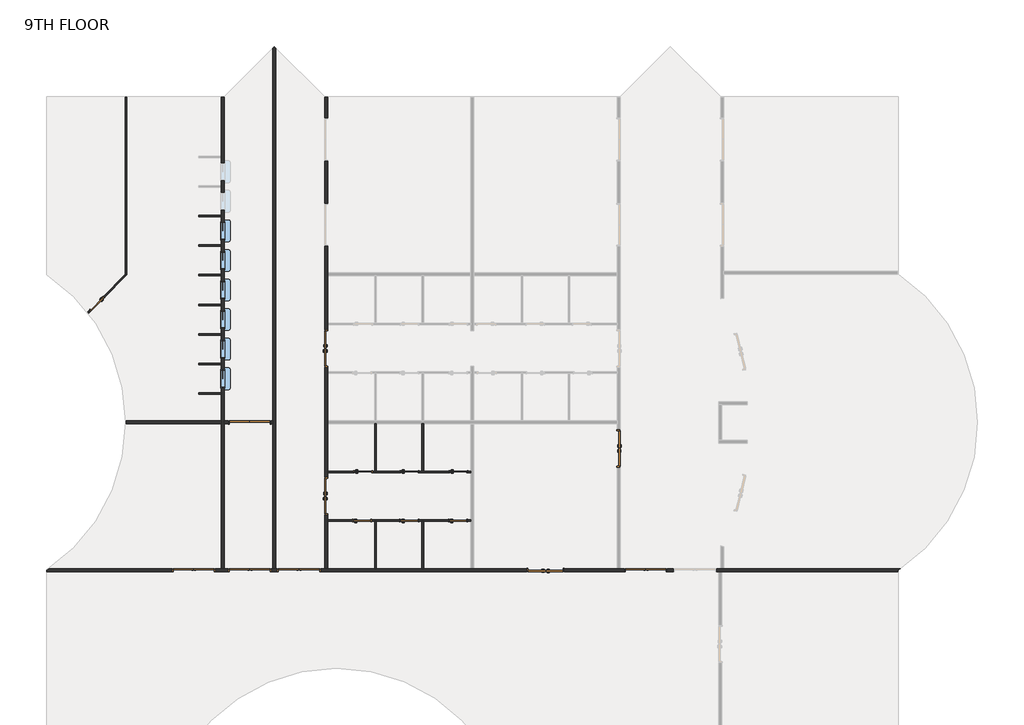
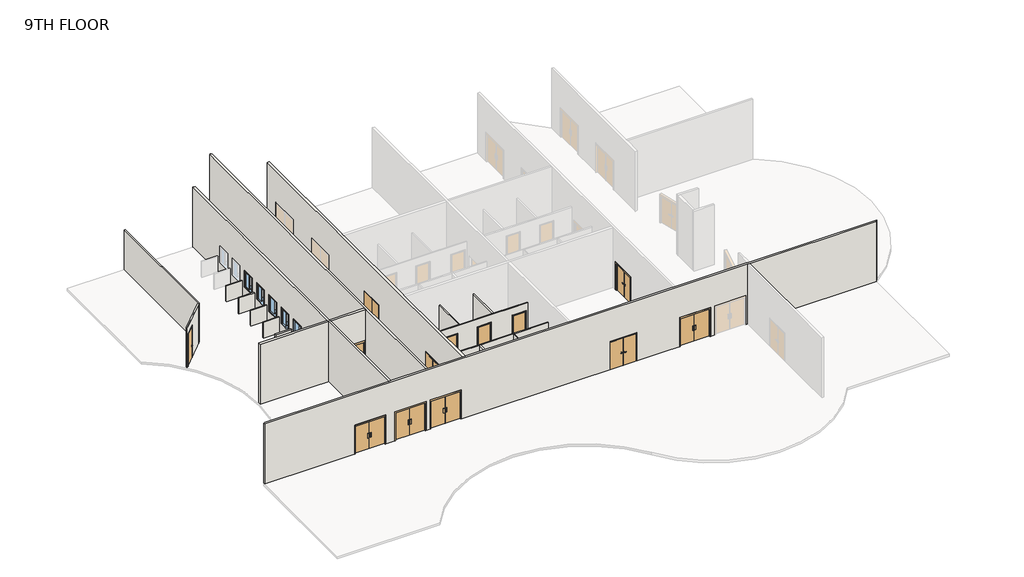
# One storey, part 1 of 2: 20 walls, 16 doors, 6 windows.
"""IFC4 building model written with IfcOpenShell, lengths in millimetres."""

from ifc_helpers import new_model, si_unit, point, frame, frame_2d, origin, place, context, project, spatial, polyline, circle_curve, trimmed, segment, composite_curve, outline, extrude, faceted_brep, transform, mapped, element, save
from ifc_brep_helpers import plane_surface, cylinder_surface, revolved_surface, advanced_brep
from components import door_2f250f70, door_0b13e4d9, door_b3a27a16, door_979b1b8c, door_f8b587be, pass_thru_4x3_19d81059

model = new_model("IFC4")

# Units and contexts
model_context = context("Model", 3, world=origin())
ifc_project = project(units=[si_unit("LENGTHUNIT", "METRE", prefix="MILLI")], contexts=[model_context])

# Site, building, storey
site = spatial("IfcSite", under=ifc_project)
building = spatial("IfcBuilding", under=site)
storey = spatial("IfcBuildingStorey", under=building, Name="9TH FLOOR", Elevation=41148.0)

# Doors
placement = place(None, origin())
door_shape = door_2f250f70(model_context)
element("IfcDoor", 1, ObjectType="Door-Passage-Double-Flush : 72\" x 82\"", at=placement, inside=storey, context=model_context, shape_type="MappedRepresentation", body=[
    mapped(door_shape, transform((14556.3400257, 13109.575, 41148.0), x_axis=(0.0, 1.0, 0.0), y_axis=(-1.0, 0.0, 0.0), z_axis=(0.0, 0.0, 1.0))),
])
element("IfcDoor", 2, ObjectType="Door-Passage-Double-Flush : 72\" x 82\"", at=placement, inside=storey, context=model_context, shape_type="MappedRepresentation", body=[
    mapped(door_shape, transform((14556.3400257, 20729.575, 41148.0), x_axis=(0.0, 1.0, 0.0), y_axis=(-1.0, 0.0, 0.0), z_axis=(0.0, 0.0, 1.0))),
])
element("IfcDoor", 3, ObjectType="Door-Passage-Double-Flush : 72\" x 82\"", at=placement, inside=storey, context=model_context, shape_type="MappedRepresentation", body=[
    mapped(door_shape, transform((25872.8337757, 9305.925, 41148.0), x_axis=(-1.0, 0.0, 0.0), y_axis=(0.0, -1.0, 0.0), z_axis=(0.0, 0.0, 1.0))),
])
element("IfcDoor", 4, ObjectType="Door-Passage-Double-Flush : 72\" x 82\"", at=placement, inside=storey, context=model_context, shape_type="MappedRepresentation", body=[
    mapped(door_shape, transform((29628.0650257, 15571.7875, 41148.0), x_axis=(0.0, -1.0, 0.0), y_axis=(1.0, 0.0, 0.0), z_axis=(0.0, 0.0, 1.0))),
])
door_2_shape = door_0b13e4d9(model_context)
element("IfcDoor", 5, ObjectType="Door-Passage-Double-Flush-Dbl_Acting : 84\" x 84\"", at=placement, inside=storey, context=model_context, shape_type="MappedRepresentation", body=[
    mapped(door_2_shape, transform((13151.4025257, 9293.225, 41148.0), x_axis=(-1.0, 0.0, 0.0), y_axis=(0.0, -1.0, 0.0), z_axis=(0.0, 0.0, 1.0))),
])
door_3_shape = door_b3a27a16(model_context)
element("IfcDoor", 6, ObjectType="Door-Passage-Double-Flush-Dbl_Acting : 84\" x 84\"", at=placement, inside=storey, context=model_context, shape_type="MappedRepresentation", body=[
    mapped(door_3_shape, transform((31033.0025257, 9293.225, 41148.0), x_axis=(1.0, 0.0, 0.0), y_axis=(0.0, 1.0, 0.0), z_axis=(0.0, 0.0, 1.0))),
])
element("IfcDoor", 7, ObjectType="Door-Passage-Double-Flush-Dbl_Acting : 84\" x 84\"", at=placement, inside=storey, context=model_context, shape_type="MappedRepresentation", body=[
    mapped(door_3_shape, transform((10620.375, 9293.225, 41148.0), x_axis=(1.0, 0.0, 0.0), y_axis=(0.0, 1.0, 0.0), z_axis=(0.0, 0.0, 1.0))),
])
element("IfcDoor", 8, ObjectType="Door-Passage-Double-Flush-Dbl_Acting : 84\" x 84\"", at=placement, inside=storey, context=model_context, shape_type="MappedRepresentation", body=[
    mapped(door_3_shape, transform((7730.5724743, 9293.225, 41148.0), x_axis=(1.0, 0.0, 0.0), y_axis=(0.0, 1.0, 0.0), z_axis=(0.0, 0.0, 1.0))),
])
element("IfcDoor", 9, ObjectType="Door-Passage-Double-Flush-Dbl_Acting : 84\" x 84\"", at=placement, inside=storey, context=model_context, shape_type="MappedRepresentation", body=[
    mapped(door_3_shape, transform((10620.375, 16913.225, 41148.0), x_axis=(1.0, 0.0, 0.0), y_axis=(0.0, 1.0, 0.0), z_axis=(0.0, 0.0, 1.0))),
])
door_4_shape = door_979b1b8c(model_context)
element("IfcDoor", 10, ObjectType="Door-Passage-Single-Flush : 36\" x 96\"", at=placement, inside=storey, context=model_context, shape_type="MappedRepresentation", body=[
    mapped(door_4_shape, transform((16456.5775257, 14357.35, 41148.0), x_axis=(1.0, 0.0, 0.0), y_axis=(0.0, 1.0, 0.0), z_axis=(0.0, 0.0, 1.0))),
])
element("IfcDoor", 11, ObjectType="Door-Passage-Single-Flush : 36\" x 96\"", at=placement, inside=storey, context=model_context, shape_type="MappedRepresentation", body=[
    mapped(door_4_shape, transform((18855.2900257, 14357.35, 41148.0), x_axis=(1.0, 0.0, 0.0), y_axis=(0.0, 1.0, 0.0), z_axis=(0.0, 0.0, 1.0))),
])
element("IfcDoor", 12, ObjectType="Door-Passage-Single-Flush : 36\" x 96\"", at=placement, inside=storey, context=model_context, shape_type="MappedRepresentation", body=[
    mapped(door_4_shape, transform((21373.0650257, 14357.35, 41148.0), x_axis=(1.0, 0.0, 0.0), y_axis=(0.0, 1.0, 0.0), z_axis=(0.0, 0.0, 1.0))),
])
element("IfcDoor", 13, ObjectType="Door-Passage-Single-Flush : 36\" x 96\"", at=placement, inside=storey, context=model_context, shape_type="MappedRepresentation", body=[
    mapped(door_4_shape, transform((2731.3607977, 23031.2061406, 41148.0), x_axis=(-0.7071067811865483, -0.7071067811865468, 0.0), y_axis=(0.7071067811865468, -0.7071067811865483, 0.0), z_axis=(0.0, 0.0, 1.0))),
])
door_5_shape = door_f8b587be(model_context)
element("IfcDoor", 14, ObjectType="Door-Passage-Single-Flush : 36\" x 96\"", at=placement, inside=storey, context=model_context, shape_type="MappedRepresentation", body=[
    mapped(door_5_shape, transform((16405.7775257, 11861.8, 41148.0), x_axis=(1.0, 0.0, 0.0), y_axis=(0.0, 1.0, 0.0), z_axis=(0.0, 0.0, 1.0))),
])
element("IfcDoor", 15, ObjectType="Door-Passage-Single-Flush : 36\" x 96\"", at=placement, inside=storey, context=model_context, shape_type="MappedRepresentation", body=[
    mapped(door_5_shape, transform((18836.2400257, 11861.8, 41148.0), x_axis=(1.0, 0.0, 0.0), y_axis=(0.0, 1.0, 0.0), z_axis=(0.0, 0.0, 1.0))),
])
element("IfcDoor", 16, ObjectType="Door-Passage-Single-Flush : 36\" x 96\"", at=placement, inside=storey, context=model_context, shape_type="MappedRepresentation", body=[
    mapped(door_5_shape, transform((21354.0150257, 11861.8, 41148.0), x_axis=(1.0, 0.0, 0.0), y_axis=(0.0, 1.0, 0.0), z_axis=(0.0, 0.0, 1.0))),
])

# Walls
element("IfcWall", 17, ObjectType="SYR_INT_ONE_HOUR", at=placement, inside=storey, context=model_context, shape_type="SweptSolid", body=[
    extrude(outline(polyline([(17066.1775257, 14403.3875), (17066.1775257, 16841.7875), (17145.5525257, 16841.7875), (17145.5525257, 14403.3875), (17066.1775257, 14403.3875)])), frame((0.0, 0.0, 41148.0), z_axis=(0.0, 0.0, 1.0), x_axis=(1.0, 0.0, 0.0)), (0.0, 0.0, 1.0), 3048.0),
])
element("IfcWall", 18, ObjectType="SYR_INT_ONE_HOUR", at=placement, inside=storey, context=model_context, shape_type="SweptSolid", body=[
    extrude(outline(polyline([(19576.0150257, 11815.7625), (19576.0150257, 9377.3625), (19496.6400257, 9377.3625), (19496.6400257, 11815.7625), (19576.0150257, 11815.7625)])), frame((0.0, 0.0, 41148.0), z_axis=(0.0, 0.0, 1.0), x_axis=(1.0, 0.0, 0.0)), (0.0, 0.0, 1.0), 3048.0),
])
element("IfcWall", 19, ObjectType="SYR_INT_ONE_HOUR", at=placement, inside=storey, context=model_context, shape_type="Brep", body=[
    faceted_brep([(14627.7775257, 14403.3875, 44196.0), (17066.1775257, 14403.3875, 44196.0), (17145.5525257, 14403.3875, 44196.0), (19496.6400257, 14403.3875, 44196.0), (19576.0150257, 14403.3875, 44196.0), (22014.4150257, 14403.3875, 44196.0), (22014.4150257, 14403.3875, 41148.0), (21862.0150257, 14403.3875, 41148.0), (21862.0150257, 14403.3875, 43618.15), (20884.1150257, 14403.3875, 43618.15), (20884.1150257, 14403.3875, 41148.0), (19576.0150257, 14403.3875, 41148.0), (19496.6400257, 14403.3875, 41148.0), (19344.2400257, 14403.3875, 41148.0), (19344.2400257, 14403.3875, 43618.15), (18366.3400257, 14403.3875, 43618.15), (18366.3400257, 14403.3875, 41148.0), (17145.5525257, 14403.3875, 41148.0), (17066.1775257, 14403.3875, 41148.0), (16945.5275257, 14403.3875, 41148.0), (16945.5275257, 14403.3875, 43618.15), (15967.6275257, 14403.3875, 43618.15), (15967.6275257, 14403.3875, 41148.0), (14627.7775257, 14403.3875, 41148.0), (22014.4150257, 14324.0125, 44196.0), (14627.7775257, 14324.0125, 44196.0), (14627.7775257, 14324.0125, 41148.0), (15967.6275257, 14324.0125, 41148.0), (15967.6275257, 14324.0125, 43618.15), (16945.5275257, 14324.0125, 43618.15), (16945.5275257, 14324.0125, 41148.0), (18366.3400257, 14324.0125, 41148.0), (18366.3400257, 14324.0125, 43618.15), (19344.2400257, 14324.0125, 43618.15), (19344.2400257, 14324.0125, 41148.0), (20884.1150257, 14324.0125, 41148.0), (20884.1150257, 14324.0125, 43618.15), (21862.0150257, 14324.0125, 43618.15), (21862.0150257, 14324.0125, 41148.0), (22014.4150257, 14324.0125, 41148.0)], [[[0, 1, 2, 3, 4, 5, 6, 7, 8, 9, 10, 11, 12, 13, 14, 15, 16, 17, 18, 19, 20, 21, 22, 23]], [[24, 25, 26, 27, 28, 29, 30, 31, 32, 33, 34, 35, 36, 37, 38, 39]], [[6, 39, 38, 7]], [[26, 23, 22, 27]], [[30, 19, 18, 17, 16, 31]], [[34, 13, 12, 11, 10, 35]], [[5, 4, 3, 2, 1, 0, 25, 24]], [[0, 23, 26, 25]], [[6, 5, 24, 39]], [[29, 20, 19, 30]], [[20, 29, 28, 21]], [[21, 28, 27, 22]], [[14, 13, 34, 33]], [[15, 14, 33, 32]], [[16, 15, 32, 31]], [[37, 8, 7, 38]], [[8, 37, 36, 9]], [[9, 36, 35, 10]]]),
])
element("IfcWall", 20, ObjectType="SYR_INT_ONE_HOUR", at=placement, inside=storey, context=model_context, shape_type="Brep", body=[
    faceted_brep([(14627.7775257, 11895.1375, 44196.0), (22014.4150257, 11895.1375, 44196.0), (22014.4150257, 11895.1375, 41148.0), (21842.9650257, 11895.1375, 41148.0), (21842.9650257, 11895.1375, 43618.15), (20865.0650257, 11895.1375, 43618.15), (20865.0650257, 11895.1375, 41148.0), (19325.1900257, 11895.1375, 41148.0), (19325.1900257, 11895.1375, 43618.15), (18347.2900257, 11895.1375, 43618.15), (18347.2900257, 11895.1375, 41148.0), (16894.7275257, 11895.1375, 41148.0), (16894.7275257, 11895.1375, 43618.15), (15916.8275257, 11895.1375, 43618.15), (15916.8275257, 11895.1375, 41148.0), (14627.7775257, 11895.1375, 41148.0), (22014.4150257, 11815.7625, 44196.0), (19576.0150257, 11815.7625, 44196.0), (19496.6400257, 11815.7625, 44196.0), (17145.5525257, 11815.7625, 44196.0), (17066.1775257, 11815.7625, 44196.0), (14627.7775257, 11815.7625, 44196.0), (14627.7775257, 11815.7625, 41148.0), (15916.8275257, 11815.7625, 41148.0), (15916.8275257, 11815.7625, 43618.15), (16894.7275257, 11815.7625, 43618.15), (16894.7275257, 11815.7625, 41148.0), (17066.1775257, 11815.7625, 41148.0), (17145.5525257, 11815.7625, 41148.0), (18347.2900257, 11815.7625, 41148.0), (18347.2900257, 11815.7625, 43618.15), (19325.1900257, 11815.7625, 43618.15), (19325.1900257, 11815.7625, 41148.0), (19496.6400257, 11815.7625, 41148.0), (19576.0150257, 11815.7625, 41148.0), (20865.0650257, 11815.7625, 41148.0), (20865.0650257, 11815.7625, 43618.15), (21842.9650257, 11815.7625, 43618.15), (21842.9650257, 11815.7625, 41148.0), (22014.4150257, 11815.7625, 41148.0)], [[[0, 1, 2, 3, 4, 5, 6, 7, 8, 9, 10, 11, 12, 13, 14, 15]], [[16, 17, 18, 19, 20, 21, 22, 23, 24, 25, 26, 27, 28, 29, 30, 31, 32, 33, 34, 35, 36, 37, 38, 39]], [[2, 39, 38, 3]], [[22, 15, 14, 23]], [[26, 11, 10, 29, 28, 27]], [[32, 7, 6, 35, 34, 33]], [[1, 0, 21, 20, 19, 18, 17, 16]], [[0, 15, 22, 21]], [[2, 1, 16, 39]], [[25, 12, 11, 26]], [[12, 25, 24, 13]], [[13, 24, 23, 14]], [[31, 8, 7, 32]], [[8, 31, 30, 9]], [[9, 30, 29, 10]], [[37, 4, 3, 38]], [[4, 37, 36, 5]], [[5, 36, 35, 6]]]),
])
element("IfcWall", 21, ObjectType="SYR_INT_ONE_HOUR", at=placement, inside=storey, context=model_context, shape_type="SweptSolid", body=[
    extrude(outline(polyline([(17066.1775257, 9377.3625), (17066.1775257, 11815.7625), (17145.5525257, 11815.7625), (17145.5525257, 9377.3625), (17066.1775257, 9377.3625)])), frame((0.0, 0.0, 41148.0), z_axis=(0.0, 0.0, 1.0), x_axis=(1.0, 0.0, 0.0)), (0.0, 0.0, 1.0), 3048.0),
])
element("IfcWall", 22, ObjectType="SYR_INT_ONE_HOUR", at=placement, inside=storey, context=model_context, shape_type="SweptSolid", body=[
    extrude(outline(polyline([(19576.0150257, 16841.7875), (19576.0150257, 14403.3875), (19496.6400257, 14403.3875), (19496.6400257, 16841.7875), (19576.0150257, 16841.7875)])), frame((0.0, 0.0, 41148.0), z_axis=(0.0, 0.0, 1.0), x_axis=(1.0, 0.0, 0.0)), (0.0, 0.0, 1.0), 3048.0),
])
element("IfcWall", 23, ObjectType="SYR_INT_ONE_HOUR", at=placement, inside=storey, context=model_context, shape_type="SweptSolid", body=[
    extrude(outline(polyline([(7979.2710938, 18443.575), (9144.0, 18443.575), (9144.0, 18364.2), (7979.2710938, 18364.2), (7979.2710938, 18443.575)])), frame((0.0, 0.0, 41148.0), z_axis=(0.0, 0.0, 1.0), x_axis=(1.0, 0.0, 0.0)), (0.0, 0.0, 1.0), 1219.2),
])
element("IfcWall", 24, ObjectType="SYR_INT_ONE_HOUR", at=placement, inside=storey, context=model_context, shape_type="SweptSolid", body=[
    extrude(outline(polyline([(7979.2710938, 19967.575), (9144.0, 19967.575), (9144.0, 19888.2), (7979.2710938, 19888.2), (7979.2710938, 19967.575)])), frame((0.0, 0.0, 41148.0), z_axis=(0.0, 0.0, 1.0), x_axis=(1.0, 0.0, 0.0)), (0.0, 0.0, 1.0), 1219.2),
])
element("IfcWall", 25, ObjectType="SYR_INT_ONE_HOUR", at=placement, inside=storey, context=model_context, shape_type="SweptSolid", body=[
    extrude(outline(polyline([(7979.2710938, 21491.575), (9144.0, 21491.575), (9144.0, 21412.2), (7979.2710938, 21412.2), (7979.2710938, 21491.575)])), frame((0.0, 0.0, 41148.0), z_axis=(0.0, 0.0, 1.0), x_axis=(1.0, 0.0, 0.0)), (0.0, 0.0, 1.0), 1219.2),
])
element("IfcWall", 26, ObjectType="SYR_INT_ONE_HOUR", at=placement, inside=storey, context=model_context, shape_type="SweptSolid", body=[
    extrude(outline(polyline([(7979.2710938, 23015.575), (9144.0, 23015.575), (9144.0, 22936.2), (7979.2710938, 22936.2), (7979.2710938, 23015.575)])), frame((0.0, 0.0, 41148.0), z_axis=(0.0, 0.0, 1.0), x_axis=(1.0, 0.0, 0.0)), (0.0, 0.0, 1.0), 1219.2),
])
element("IfcWall", 27, ObjectType="SYR_INT_ONE_HOUR", at=placement, inside=storey, context=model_context, shape_type="SweptSolid", body=[
    extrude(outline(polyline([(7979.2710938, 24539.575), (9144.0, 24539.575), (9144.0, 24460.2), (7979.2710938, 24460.2), (7979.2710938, 24539.575)])), frame((0.0, 0.0, 41148.0), z_axis=(0.0, 0.0, 1.0), x_axis=(1.0, 0.0, 0.0)), (0.0, 0.0, 1.0), 1219.2),
])
element("IfcWall", 28, ObjectType="SYR_INT_ONE_HOUR", at=placement, inside=storey, context=model_context, shape_type="SweptSolid", body=[
    extrude(outline(polyline([(7979.2710938, 26063.575), (9144.0, 26063.575), (9144.0, 25984.2), (7979.2710938, 25984.2), (7979.2710938, 26063.575)])), frame((0.0, 0.0, 41148.0), z_axis=(0.0, 0.0, 1.0), x_axis=(1.0, 0.0, 0.0)), (0.0, 0.0, 1.0), 1219.2),
])
element("IfcWall", 29, ObjectType="SYR_INT_ONE_HOUR", at=placement, inside=storey, context=model_context, shape_type="SweptSolid", body=[
    extrude(outline(polyline([(7979.2710938, 27587.575), (9144.0, 27587.575), (9144.0, 27508.2), (7979.2710938, 27508.2), (7979.2710938, 27587.575)])), frame((0.0, 0.0, 41148.0), z_axis=(0.0, 0.0, 1.0), x_axis=(1.0, 0.0, 0.0)), (0.0, 0.0, 1.0), 1219.2),
])
element("IfcWall", 30, ObjectType="SYR_INT_ONE_HOUR", at=placement, inside=storey, context=model_context, shape_type="Brep", body=[
    faceted_brep([(4209.0224132, 33683.575, 41148.0), (4209.0224132, 24556.0141008, 41148.0), (4209.0224132, 24443.7608992, 41148.0), (4209.0224132, 24443.7608992, 44196.0), (4209.0224132, 24556.0141008, 44196.0), (4209.0224132, 33683.575, 44196.0), (4288.3974132, 33683.575, 41148.0), (4288.3974132, 33683.575, 44196.0), (4288.3974132, 24523.1358992, 44196.0), (4288.3974132, 24523.1358992, 41148.0)], [[[0, 1, 2, 3, 4, 5]], [[6, 7, 8, 9]], [[2, 1, 0, 6, 9]], [[5, 4, 3, 8, 7]], [[3, 2, 9, 8]], [[0, 5, 7, 6]]]),
])
element("IfcWall", 31, ObjectType="SYR_INT_ONE_HOUR", at=placement, inside=storey, context=model_context, shape_type="AdvancedBrep", body=[
    advanced_brep(
    [(2260.5955581, 22607.5872456, 44196.0), (4209.0224132, 24556.0141008, 44196.0), (4209.0224132, 24556.0141008, 41148.0), (3053.527486, 23400.5191735, 41148.0), (3053.527486, 23400.5191735, 43618.15), (2362.0477647, 22709.0394522, 43618.15), (2362.0477647, 22709.0394522, 41148.0), (2260.5955581, 22607.5872456, 41148.0), (4209.0224132, 24443.7608992, 44196.0), (2310.04482, 22544.783306, 44196.0), (2310.04482, 22544.783306, 41148.0), (2418.1743655, 22652.9128515, 41148.0), (2418.1743655, 22652.9128515, 43618.15), (3109.6540868, 23344.3925728, 43618.15), (3109.6540868, 23344.3925728, 41148.0), (4209.0224132, 24443.7608992, 41148.0)],
    [
        (0, 1),
        (1, 2),
        (2, 3),
        (3, 4),
        (4, 5),
        (5, 6),
        (6, 7),
        (7, 0),
        (8, 9),
        (9, 10),
        (10, 11),
        (11, 12),
        (12, 13),
        (13, 14),
        (14, 15),
        (15, 8),
        (2, 15),
        (14, 3),
        (10, 7, circle_curve(frame((-4898.9611805, 16919.575, 41148.0), z_axis=(0.0, 0.0, 1.0), x_axis=(1.0, 0.0, 0.0)), 9144.0)),
        (6, 11),
        (0, 9, circle_curve(frame((-4898.9611805, 16919.575, 44196.0), z_axis=(0.0, 0.0, -1.0), x_axis=(1.0, 0.0, 0.0)), 9144.0)),
        (8, 1),
        (5, 12),
        (4, 13),
    ],
    [
        plane_surface(frame((4220.6466129, 24567.6383004, 41148.0), z_axis=(-0.7071067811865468, 0.7071067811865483, 0.0), x_axis=(-0.7071067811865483, -0.7071067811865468, 0.0))),
        plane_surface(frame((4276.7732136, 24511.5116996, 41148.0), z_axis=(0.7071067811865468, -0.7071067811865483, 0.0), x_axis=(0.7071067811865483, 0.7071067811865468, 0.0))),
        plane_surface(frame((4220.6466129, 24567.6383004, 41148.0), z_axis=(0.0, 0.0, -1.0), x_axis=(0.7071067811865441, -0.7071067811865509, 0.0))),
        plane_surface(frame((2146.5216178, 22493.5133053, 44196.0), z_axis=(0.0, 0.0, 1.0000000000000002), x_axis=(0.7071067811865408, -0.7071067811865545, 0.0))),
        plane_surface(frame((4209.0224132, 33778.5769531, 41148.0), z_axis=(1.0, 0.0, 0.0), x_axis=(0.0, -1.0, 0.0))),
        plane_surface(frame((1284.4170302, 23786.6701867, 41148.0), z_axis=(0.7071067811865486, 0.7071067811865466, 0.0), x_axis=(0.7071067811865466, -0.7071067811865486, 0.0))),
        plane_surface(frame((1284.4170302, 23786.6701867, 43618.15), z_axis=(0.0, 0.0, -1.0), x_axis=(0.7071067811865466, -0.7071067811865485, 0.0))),
        plane_surface(frame((1975.8967515, 24478.1499081, 43618.15), z_axis=(-0.7071067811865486, -0.7071067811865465, 0.0), x_axis=(0.7071067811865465, -0.7071067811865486, 0.0))),
        revolved_surface(polyline([(4245.0388195, 16919.575, 44196.0), (4245.0388195, 16919.575, 41148.0)]), (-4898.9611805, 16919.575, 0.0), (0.0, 0.0, 1.0)),
    ],
    [
        (0, [[1, 2, 3, 4, 5, 6, 7, 8]]),
        (1, [[9, 10, 11, 12, 13, 14, 15, 16]]),
        (2, [[17, -15, 18, -3]]),
        (2, [[19, -7, 20, -11]]),
        (3, [[-1, 21, -9, 22]]),
        (4, [[-2, -22, -16, -17]]),
        (5, [[23, -12, -20, -6]]),
        (6, [[-23, -5, 24, -13]]),
        (7, [[-24, -4, -18, -14]]),
        (8, [[-8, -19, -10, -21]]),
    ],
),
])
element("IfcWall", 32, ObjectType="SYR_INT_TWO_HOUR", at=placement, inside=storey, context=model_context, shape_type="AdvancedBrep", body=[
    advanced_brep(
    [(270.9292057, 9377.3625, 45720.0), (9144.0, 9377.3625, 45720.0), (9299.575, 9377.3625, 45720.0), (11808.1012629, 9377.3625, 45720.0), (11963.6762629, 9377.3625, 45720.0), (14472.2025257, 9377.3625, 45720.0), (14627.7775257, 9377.3625, 45720.0), (22014.4150257, 9377.3625, 45720.0), (22169.9900257, 9377.3625, 45720.0), (29556.6275257, 9377.3625, 45720.0), (29712.2025257, 9377.3625, 45720.0), (34884.8300515, 9377.3625, 45720.0), (35040.4050515, 9377.3625, 45720.0), (44144.1842571, 9377.3625, 45720.0), (44144.1842571, 9377.3625, 41148.0), (35040.4050515, 9377.3625, 41148.0), (34884.8300515, 9377.3625, 41148.0), (34681.6300515, 9377.3625, 41148.0), (34681.6300515, 9377.3625, 43383.2), (32446.4300515, 9377.3625, 43383.2), (32446.4300515, 9377.3625, 41148.0), (32150.6025257, 9377.3625, 41148.0), (32150.6025257, 9377.3625, 43383.2), (29915.4025257, 9377.3625, 43383.2), (29915.4025257, 9377.3625, 41148.0), (29712.2025257, 9377.3625, 41148.0), (29556.6275257, 9377.3625, 41148.0), (26838.0337757, 9377.3625, 41148.0), (26838.0337757, 9377.3625, 43332.4), (24907.6337757, 9377.3625, 43332.4), (24907.6337757, 9377.3625, 41148.0), (22169.9900257, 9377.3625, 41148.0), (22014.4150257, 9377.3625, 41148.0), (19576.0150257, 9377.3625, 41148.0), (19496.6400257, 9377.3625, 41148.0), (17145.5525257, 9377.3625, 41148.0), (17066.1775257, 9377.3625, 41148.0), (14627.7775257, 9377.3625, 41148.0), (14472.2025257, 9377.3625, 41148.0), (14269.0025257, 9377.3625, 41148.0), (14269.0025257, 9377.3625, 43383.2), (12033.8025257, 9377.3625, 43383.2), (12033.8025257, 9377.3625, 41148.0), (11963.6762629, 9377.3625, 41148.0), (11808.1012629, 9377.3625, 41148.0), (11737.975, 9377.3625, 41148.0), (11737.975, 9377.3625, 43383.2), (9502.775, 9377.3625, 43383.2), (9502.775, 9377.3625, 41148.0), (9299.575, 9377.3625, 41148.0), (9144.0, 9377.3625, 41148.0), (8848.1724743, 9377.3625, 41148.0), (8848.1724743, 9377.3625, 43383.2), (6612.9724743, 9377.3625, 43383.2), (6612.9724743, 9377.3625, 41148.0), (270.9292057, 9377.3625, 41148.0), (155.575, 9221.7875, 45720.0), (155.575, 9221.7875, 41148.0), (6612.9724743, 9221.7875, 41148.0), (6612.9724743, 9221.7875, 43383.2), (8848.1724743, 9221.7875, 43383.2), (8848.1724743, 9221.7875, 41148.0), (9502.775, 9221.7875, 41148.0), (9502.775, 9221.7875, 43383.2), (11737.975, 9221.7875, 43383.2), (11737.975, 9221.7875, 41148.0), (12033.8025257, 9221.7875, 41148.0), (12033.8025257, 9221.7875, 43383.2), (14269.0025257, 9221.7875, 43383.2), (14269.0025257, 9221.7875, 41148.0), (24907.6337757, 9221.7875, 41148.0), (24907.6337757, 9221.7875, 43332.4), (26838.0337757, 9221.7875, 43332.4), (26838.0337757, 9221.7875, 41148.0), (29915.4025257, 9221.7875, 41148.0), (29915.4025257, 9221.7875, 43383.2), (32150.6025257, 9221.7875, 43383.2), (32150.6025257, 9221.7875, 41148.0), (32446.4300515, 9221.7875, 41148.0), (32446.4300515, 9221.7875, 43383.2), (34681.6300515, 9221.7875, 43383.2), (34681.6300515, 9221.7875, 41148.0), (34803.3714577, 9221.7875, 41148.0), (34958.9464577, 9221.7875, 41148.0), (44028.8300515, 9221.7875, 41148.0), (44028.8300515, 9221.7875, 45720.0), (34958.9464577, 9221.7875, 45720.0), (34803.3714577, 9221.7875, 45720.0), (44028.8300515, 9299.575, 41148.0), (155.575, 9299.575, 41148.0), (155.575, 9299.575, 45720.0), (44028.8300515, 9299.575, 45720.0)],
    [
        (0, 1),
        (1, 2),
        (2, 3),
        (3, 4),
        (4, 5),
        (5, 6),
        (6, 7),
        (7, 8),
        (8, 9),
        (9, 10),
        (10, 11),
        (11, 12),
        (12, 13),
        (13, 14),
        (14, 15),
        (15, 16),
        (16, 17),
        (17, 18),
        (18, 19),
        (19, 20),
        (20, 21),
        (21, 22),
        (22, 23),
        (23, 24),
        (24, 25),
        (25, 26),
        (26, 27),
        (27, 28),
        (28, 29),
        (29, 30),
        (30, 31),
        (31, 32),
        (32, 33),
        (33, 34),
        (34, 35),
        (35, 36),
        (36, 37),
        (37, 38),
        (38, 39),
        (39, 40),
        (40, 41),
        (41, 42),
        (42, 43),
        (43, 44),
        (44, 45),
        (45, 46),
        (46, 47),
        (47, 48),
        (48, 49),
        (49, 50),
        (50, 51),
        (51, 52),
        (52, 53),
        (53, 54),
        (54, 55),
        (55, 0),
        (56, 57),
        (57, 58),
        (58, 59),
        (59, 60),
        (60, 61),
        (61, 62),
        (62, 63),
        (63, 64),
        (64, 65),
        (65, 66),
        (66, 67),
        (67, 68),
        (68, 69),
        (69, 70),
        (70, 71),
        (71, 72),
        (72, 73),
        (73, 74),
        (74, 75),
        (75, 76),
        (76, 77),
        (77, 78),
        (78, 79),
        (79, 80),
        (80, 81),
        (81, 82),
        (82, 83),
        (83, 84),
        (84, 85),
        (85, 86),
        (86, 87),
        (87, 56),
        (20, 78),
        (77, 21),
        (81, 17),
        (14, 88, circle_curve(frame((38974.293871, 16919.575, 41148.0), z_axis=(0.0, 0.0, -1.0), x_axis=(0.8333333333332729, 0.5527707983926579, 0.0)), 9144.0)),
        (88, 84),
        (24, 74),
        (73, 27),
        (42, 66),
        (65, 45),
        (69, 39),
        (30, 70),
        (48, 62),
        (61, 51),
        (54, 58),
        (57, 89),
        (89, 55, circle_curve(frame((-4898.9611805, 16919.575, 41148.0), z_axis=(0.0, 0.0, 1.0), x_axis=(0.8333333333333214, 0.5527707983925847, 0.0)), 9144.0)),
        (0, 90, circle_curve(frame((-4898.9611805, 16919.575, 45720.0), z_axis=(0.0, 0.0, -1.0), x_axis=(0.8333333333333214, 0.5527707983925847, 0.0)), 9144.0)),
        (90, 56),
        (85, 91),
        (91, 13, circle_curve(frame((38974.293871, 16919.575, 45720.0), z_axis=(0.0, 0.0, 1.0), x_axis=(0.8333333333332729, 0.5527707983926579, 0.0)), 9144.0)),
        (19, 79),
        (18, 80),
        (76, 22),
        (75, 23),
        (41, 67),
        (40, 68),
        (64, 46),
        (63, 47),
        (60, 52),
        (59, 53),
        (29, 71),
        (28, 72),
        (89, 90),
        (91, 88),
    ],
    [
        plane_surface(frame((44028.8300515, 9377.3625, 41148.0), z_axis=(0.0, 1.0, 0.0), x_axis=(-1.0, 0.0, 0.0))),
        plane_surface(frame((44028.8300515, 9221.7875, 41148.0), z_axis=(0.0, -1.0, 0.0), x_axis=(1.0, 0.0, 0.0))),
        plane_surface(frame((44305.118871, 9377.3625, 41148.0), z_axis=(0.0, 0.0, -1.0), x_axis=(0.0, -1.0, 0.0))),
        plane_surface(frame((0.0, 9377.3625, 45720.0), z_axis=(0.0, 0.0, 1.0), x_axis=(0.0, -1.0, 0.0))),
        plane_surface(frame((32446.4300515, 10745.7875, 41148.0), z_axis=(1.0, 0.0, 0.0), x_axis=(0.0, -1.0, 0.0))),
        plane_surface(frame((32446.4300515, 10745.7875, 43383.2), z_axis=(0.0, 0.0, -1.0), x_axis=(0.0, -1.0, 0.0))),
        plane_surface(frame((34681.6300515, 10745.7875, 43383.2), z_axis=(-1.0, 0.0, 0.0), x_axis=(0.0, -1.0, 0.0))),
        plane_surface(frame((32150.6025257, 7697.7875, 41148.0), z_axis=(-1.0, 0.0, 0.0), x_axis=(0.0, 1.0, 0.0))),
        plane_surface(frame((32150.6025257, 7697.7875, 43383.2), z_axis=(0.0, 0.0, -1.0), x_axis=(0.0, 1.0, 0.0))),
        plane_surface(frame((29915.4025257, 7697.7875, 43383.2), z_axis=(1.0, 0.0, 0.0), x_axis=(0.0, 1.0, 0.0))),
        plane_surface(frame((12033.8025257, 10745.7875, 41148.0), z_axis=(1.0, 0.0, 0.0), x_axis=(0.0, -1.0, 0.0))),
        plane_surface(frame((12033.8025257, 10745.7875, 43383.2), z_axis=(0.0, 0.0, -1.0), x_axis=(0.0, -1.0, 0.0))),
        plane_surface(frame((14269.0025257, 10745.7875, 43383.2), z_axis=(-1.0, 0.0, 0.0), x_axis=(0.0, -1.0, 0.0))),
        plane_surface(frame((11737.975, 7697.7875, 41148.0), z_axis=(-1.0, 0.0, 0.0), x_axis=(0.0, 1.0, 0.0))),
        plane_surface(frame((11737.975, 7697.7875, 43383.2), z_axis=(0.0, 0.0, -1.0), x_axis=(0.0, 1.0, 0.0))),
        plane_surface(frame((9502.775, 7697.7875, 43383.2), z_axis=(1.0, 0.0, 0.0), x_axis=(0.0, 1.0, 0.0))),
        plane_surface(frame((8848.1724743, 7697.7875, 41148.0), z_axis=(-1.0, 0.0, 0.0), x_axis=(0.0, 1.0, 0.0))),
        plane_surface(frame((8848.1724743, 7697.7875, 43383.2), z_axis=(0.0, 0.0, -1.0), x_axis=(0.0, 1.0, 0.0))),
        plane_surface(frame((6612.9724743, 7697.7875, 43383.2), z_axis=(1.0, 0.0, 0.0), x_axis=(0.0, 1.0, 0.0))),
        plane_surface(frame((24907.6337757, 10901.3625, 41148.0), z_axis=(1.0, 0.0, 0.0), x_axis=(0.0, -1.0, 0.0))),
        plane_surface(frame((24907.6337757, 10901.3625, 43332.4), z_axis=(0.0, 0.0, -1.0), x_axis=(0.0, -1.0, 0.0))),
        plane_surface(frame((26838.0337757, 10901.3625, 43332.4), z_axis=(-1.0, 0.0, 0.0), x_axis=(0.0, -1.0, 0.0))),
        revolved_surface(polyline([(2721.0388194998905, 21974.111180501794, 45720.0), (2721.0388194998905, 21974.111180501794, 41148.0)]), (-4898.9611805, 16919.575, 40919.4), (0.0, 0.0, 1.0)),
        plane_surface(frame((155.575, -12852.9844355, 40919.4), z_axis=(-1.0, 0.0, 0.0), x_axis=(0.0, -1.0, 0.0))),
        cylinder_surface(frame((38974.293871, 16919.575, 40919.4), z_axis=(0.0, 0.0, 1.0), x_axis=(0.8333333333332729, 0.5527707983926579, 0.0)), 9144.0),
        plane_surface(frame((44028.8300515, -12852.9844355, 40919.4), z_axis=(1.0, 0.0, 0.0), x_axis=(0.0, 1.0, 0.0))),
    ],
    [
        (0, [[1, 2, 3, 4, 5, 6, 7, 8, 9, 10, 11, 12, 13, 14, 15, 16, 17, 18, 19, 20, 21, 22, 23, 24, 25, 26, 27, 28, 29, 30, 31, 32, 33, 34, 35, 36, 37, 38, 39, 40, 41, 42, 43, 44, 45, 46, 47, 48, 49, 50, 51, 52, 53, 54, 55, 56]]),
        (1, [[57, 58, 59, 60, 61, 62, 63, 64, 65, 66, 67, 68, 69, 70, 71, 72, 73, 74, 75, 76, 77, 78, 79, 80, 81, 82, 83, 84, 85, 86, 87, 88]]),
        (2, [[89, -78, 90, -21]]),
        (2, [[91, -17, -16, -15, 92, 93, -84, -83, -82]]),
        (2, [[94, -74, 95, -27, -26, -25]]),
        (2, [[96, -66, 97, -45, -44, -43]]),
        (2, [[98, -39, -38, -37, -36, -35, -34, -33, -32, -31, 99, -70]]),
        (2, [[100, -62, 101, -51, -50, -49]]),
        (2, [[-55, 102, -58, 103, 104]]),
        (3, [[-13, -12, -11, -10, -9, -8, -7, -6, -5, -4, -3, -2, -1, 105, 106, -88, -87, -86, 107, 108]]),
        (4, [[109, -79, -89, -20]]),
        (5, [[-109, -19, 110, -80]]),
        (6, [[-110, -18, -91, -81]]),
        (7, [[111, -22, -90, -77]]),
        (8, [[-111, -76, 112, -23]]),
        (9, [[-112, -75, -94, -24]]),
        (10, [[113, -67, -96, -42]]),
        (11, [[-113, -41, 114, -68]]),
        (12, [[-114, -40, -98, -69]]),
        (13, [[115, -46, -97, -65]]),
        (14, [[-115, -64, 116, -47]]),
        (15, [[-116, -63, -100, -48]]),
        (16, [[117, -52, -101, -61]]),
        (17, [[-117, -60, 118, -53]]),
        (18, [[-118, -59, -102, -54]]),
        (19, [[119, -71, -99, -30]]),
        (20, [[-119, -29, 120, -72]]),
        (21, [[-120, -28, -95, -73]]),
        (22, [[-56, -104, 121, -105]]),
        (23, [[-57, -106, -121, -103]]),
        (24, [[-14, -108, 122, -92]]),
        (25, [[-85, -93, -122, -107]]),
    ],
),
])
element("IfcWall", 33, ObjectType="SYR_INT_TWO_HOUR", at=placement, inside=storey, context=model_context, shape_type="Brep", body=[
    faceted_brep([(9144.0, 33683.575, 41148.0), (9144.0, 30635.575, 41148.0), (9144.0, 30556.2, 41148.0), (9144.0, 29111.575, 41148.0), (9144.0, 29032.2, 41148.0), (9144.0, 27587.575, 41148.0), (9144.0, 27508.2, 41148.0), (9144.0, 26063.575, 41148.0), (9144.0, 25984.2, 41148.0), (9144.0, 24539.575, 41148.0), (9144.0, 24460.2, 41148.0), (9144.0, 23015.575, 41148.0), (9144.0, 22936.2, 41148.0), (9144.0, 21491.575, 41148.0), (9144.0, 21412.2, 41148.0), (9144.0, 19967.575, 41148.0), (9144.0, 19888.2, 41148.0), (9144.0, 18443.575, 41148.0), (9144.0, 18364.2, 41148.0), (9144.0, 16997.3625, 41148.0), (9144.0, 16841.7875, 41148.0), (9144.0, 9377.3625, 41148.0), (9144.0, 9377.3625, 45720.0), (9144.0, 16841.7875, 45720.0), (9144.0, 16997.3625, 45720.0), (9144.0, 33683.575, 45720.0), (9144.0, 19623.0875, 43281.6), (9144.0, 18708.6875, 43281.6), (9144.0, 18708.6875, 42062.4), (9144.0, 19623.0875, 42062.4), (9144.0, 21147.0875, 43281.6), (9144.0, 20232.6875, 43281.6), (9144.0, 20232.6875, 42062.4), (9144.0, 21147.0875, 42062.4), (9144.0, 22671.0875, 43281.6), (9144.0, 21756.6875, 43281.6), (9144.0, 21756.6875, 42062.4), (9144.0, 22671.0875, 42062.4), (9144.0, 24195.0875, 43281.6), (9144.0, 23280.6875, 43281.6), (9144.0, 23280.6875, 42062.4), (9144.0, 24195.0875, 42062.4), (9144.0, 25719.0875, 43281.6), (9144.0, 24804.6875, 43281.6), (9144.0, 24804.6875, 42062.4), (9144.0, 25719.0875, 42062.4), (9144.0, 27243.0875, 43281.6), (9144.0, 26328.6875, 43281.6), (9144.0, 26328.6875, 42062.4), (9144.0, 27243.0875, 42062.4), (9144.0, 28767.0875, 43281.6), (9144.0, 27852.6875, 43281.6), (9144.0, 27852.6875, 42062.4), (9144.0, 28767.0875, 42062.4), (9144.0, 30291.0875, 43281.6), (9144.0, 29376.6875, 43281.6), (9144.0, 29376.6875, 42062.4), (9144.0, 30291.0875, 42062.4), (9299.575, 33683.575, 41148.0), (9299.575, 33683.575, 45720.0), (9299.575, 16997.3625, 45720.0), (9299.575, 16841.7875, 45720.0), (9299.575, 9377.3625, 45720.0), (9299.575, 9377.3625, 41148.0), (9299.575, 16841.7875, 41148.0), (9299.575, 16997.3625, 41148.0), (9299.575, 19623.0875, 43281.6), (9299.575, 19623.0875, 42062.4), (9299.575, 18708.6875, 42062.4), (9299.575, 18708.6875, 43281.6), (9299.575, 21147.0875, 43281.6), (9299.575, 21147.0875, 42062.4), (9299.575, 20232.6875, 42062.4), (9299.575, 20232.6875, 43281.6), (9299.575, 22671.0875, 43281.6), (9299.575, 22671.0875, 42062.4), (9299.575, 21756.6875, 42062.4), (9299.575, 21756.6875, 43281.6), (9299.575, 24195.0875, 43281.6), (9299.575, 24195.0875, 42062.4), (9299.575, 23280.6875, 42062.4), (9299.575, 23280.6875, 43281.6), (9299.575, 25719.0875, 43281.6), (9299.575, 25719.0875, 42062.4), (9299.575, 24804.6875, 42062.4), (9299.575, 24804.6875, 43281.6), (9299.575, 27243.0875, 43281.6), (9299.575, 27243.0875, 42062.4), (9299.575, 26328.6875, 42062.4), (9299.575, 26328.6875, 43281.6), (9299.575, 28767.0875, 43281.6), (9299.575, 28767.0875, 42062.4), (9299.575, 27852.6875, 42062.4), (9299.575, 27852.6875, 43281.6), (9299.575, 30291.0875, 43281.6), (9299.575, 30291.0875, 42062.4), (9299.575, 29376.6875, 42062.4), (9299.575, 29376.6875, 43281.6)], [[[0, 1, 2, 3, 4, 5, 6, 7, 8, 9, 10, 11, 12, 13, 14, 15, 16, 17, 18, 19, 20, 21, 22, 23, 24, 25], [26, 27, 28, 29], [30, 31, 32, 33], [34, 35, 36, 37], [38, 39, 40, 41], [42, 43, 44, 45], [46, 47, 48, 49], [50, 51, 52, 53], [54, 55, 56, 57]], [[58, 59, 60, 61, 62, 63, 64, 65], [66, 67, 68, 69], [70, 71, 72, 73], [74, 75, 76, 77], [78, 79, 80, 81], [82, 83, 84, 85], [86, 87, 88, 89], [90, 91, 92, 93], [94, 95, 96, 97]], [[21, 20, 19, 18, 17, 16, 15, 14, 13, 12, 11, 10, 9, 8, 7, 6, 5, 4, 3, 2, 1, 0, 58, 65, 64, 63]], [[25, 24, 23, 22, 62, 61, 60, 59]], [[22, 21, 63, 62]], [[67, 66, 26, 29]], [[68, 67, 29, 28]], [[69, 68, 28, 27]], [[66, 69, 27, 26]], [[71, 70, 30, 33]], [[72, 71, 33, 32]], [[73, 72, 32, 31]], [[70, 73, 31, 30]], [[75, 74, 34, 37]], [[76, 75, 37, 36]], [[77, 76, 36, 35]], [[74, 77, 35, 34]], [[79, 78, 38, 41]], [[80, 79, 41, 40]], [[81, 80, 40, 39]], [[78, 81, 39, 38]], [[83, 82, 42, 45]], [[84, 83, 45, 44]], [[85, 84, 44, 43]], [[82, 85, 43, 42]], [[87, 86, 46, 49]], [[88, 87, 49, 48]], [[89, 88, 48, 47]], [[86, 89, 47, 46]], [[91, 90, 50, 53]], [[92, 91, 53, 52]], [[93, 92, 52, 51]], [[90, 93, 51, 50]], [[95, 94, 54, 57]], [[96, 95, 57, 56]], [[97, 96, 56, 55]], [[94, 97, 55, 54]], [[0, 25, 59, 58]]]),
])
element("IfcWall", 34, ObjectType="SYR_INT_TWO_HOUR", at=placement, inside=storey, context=model_context, shape_type="Brep", body=[
    faceted_brep([(14472.2025257, 9377.3625, 45720.0), (14472.2025257, 33683.575, 45720.0), (14472.2025257, 33683.575, 41148.0), (14472.2025257, 32616.775, 41148.0), (14472.2025257, 32616.775, 43383.2), (14472.2025257, 30381.575, 43383.2), (14472.2025257, 30381.575, 41148.0), (14472.2025257, 28219.4, 41148.0), (14472.2025257, 28219.4, 43383.2), (14472.2025257, 25984.2, 43383.2), (14472.2025257, 25984.2, 41148.0), (14472.2025257, 21694.775, 41148.0), (14472.2025257, 21694.775, 43332.4), (14472.2025257, 19764.375, 43332.4), (14472.2025257, 19764.375, 41148.0), (14472.2025257, 14074.775, 41148.0), (14472.2025257, 14074.775, 43332.4), (14472.2025257, 12144.375, 43332.4), (14472.2025257, 12144.375, 41148.0), (14472.2025257, 9377.3625, 41148.0), (14627.7775257, 33683.575, 45720.0), (14627.7775257, 24617.3625, 45720.0), (14627.7775257, 24461.7875, 45720.0), (14627.7775257, 16997.3625, 45720.0), (14627.7775257, 16841.7875, 45720.0), (14627.7775257, 9377.3625, 45720.0), (14627.7775257, 9377.3625, 41148.0), (14627.7775257, 11815.7625, 41148.0), (14627.7775257, 11895.1375, 41148.0), (14627.7775257, 12144.375, 41148.0), (14627.7775257, 12144.375, 43332.4), (14627.7775257, 14074.775, 43332.4), (14627.7775257, 14074.775, 41148.0), (14627.7775257, 14324.0125, 41148.0), (14627.7775257, 14403.3875, 41148.0), (14627.7775257, 16841.7875, 41148.0), (14627.7775257, 16997.3625, 41148.0), (14627.7775257, 19435.7625, 41148.0), (14627.7775257, 19515.1375, 41148.0), (14627.7775257, 19764.375, 41148.0), (14627.7775257, 19764.375, 43332.4), (14627.7775257, 21694.775, 43332.4), (14627.7775257, 21694.775, 41148.0), (14627.7775257, 21944.0125, 41148.0), (14627.7775257, 22023.3875, 41148.0), (14627.7775257, 24461.7875, 41148.0), (14627.7775257, 24617.3625, 41148.0), (14627.7775257, 25984.2, 41148.0), (14627.7775257, 25984.2, 43383.2), (14627.7775257, 28219.4, 43383.2), (14627.7775257, 28219.4, 41148.0), (14627.7775257, 30381.575, 41148.0), (14627.7775257, 30381.575, 43383.2), (14627.7775257, 32616.775, 43383.2), (14627.7775257, 32616.775, 41148.0), (14627.7775257, 33683.575, 41148.0)], [[[0, 1, 2, 3, 4, 5, 6, 7, 8, 9, 10, 11, 12, 13, 14, 15, 16, 17, 18, 19]], [[20, 21, 22, 23, 24, 25, 26, 27, 28, 29, 30, 31, 32, 33, 34, 35, 36, 37, 38, 39, 40, 41, 42, 43, 44, 45, 46, 47, 48, 49, 50, 51, 52, 53, 54, 55]], [[26, 19, 18, 29, 28, 27]], [[32, 15, 14, 39, 38, 37, 36, 35, 34, 33]], [[42, 11, 10, 47, 46, 45, 44, 43]], [[3, 2, 55, 54]], [[6, 51, 50, 7]], [[1, 0, 25, 24, 23, 22, 21, 20]], [[0, 19, 26, 25]], [[31, 16, 15, 32]], [[16, 31, 30, 17]], [[17, 30, 29, 18]], [[41, 12, 11, 42]], [[12, 41, 40, 13]], [[13, 40, 39, 14]], [[53, 4, 3, 54]], [[4, 53, 52, 5]], [[5, 52, 51, 6]], [[49, 8, 7, 50]], [[8, 49, 48, 9]], [[9, 48, 47, 10]], [[2, 1, 20, 55]]]),
])
element("IfcWall", 35, ObjectType="SYR_INT_TWO_HOUR", at=placement, inside=storey, context=model_context, shape_type="Brep", body=[
    faceted_brep([(11963.6762629, 9377.3625, 41148.0), (11963.6762629, 36192.1012629, 41148.0), (11963.6762629, 36192.1012629, 45720.0), (11963.6762629, 9377.3625, 45720.0), (11808.1012629, 9377.3625, 41148.0), (11808.1012629, 9377.3625, 45720.0), (11808.1012629, 16841.7875, 45720.0), (11808.1012629, 16997.3625, 45720.0), (11808.1012629, 36192.1012629, 45720.0), (11808.1012629, 36192.1012629, 41148.0), (11808.1012629, 16997.3625, 41148.0), (11808.1012629, 16841.7875, 41148.0), (11885.8887629, 36269.8887629, 41148.0), (11885.8887629, 36269.8887629, 45720.0)], [[[0, 1, 2, 3]], [[4, 5, 6, 7, 8, 9, 10, 11]], [[1, 0, 4, 11, 10, 9, 12]], [[3, 2, 13, 8, 7, 6, 5]], [[0, 3, 5, 4]], [[2, 1, 12, 13]], [[12, 9, 8, 13]]]),
])
element("IfcWall", 36, ObjectType="SYR_INT_TWO_HOUR", at=placement, inside=storey, context=model_context, shape_type="SweptSolid", body=[
    extrude(outline(polyline([(41148.0, 11808.1012629), (45720.0, 11808.1012629), (45720.0, 9299.575), (41148.0, 9299.575), (41148.0, 9502.775), (43383.2, 9502.775), (43383.2, 11737.975), (41148.0, 11737.975), (41148.0, 11808.1012629)])), frame((0.0, 16841.7875, 0.0), z_axis=(0.0, 1.0, 0.0), x_axis=(0.0, 0.0, 1.0)), (0.0, 0.0, 1.0), 155.575),
    extrude(outline(composite_curve([segment(trimmed(circle_curve(frame_2d((-4898.9611805, 16919.575)), 9144.0), [point((4244.7079465, 16841.7875))], [point((4244.7079465, 16997.3625))], True, "CARTESIAN"), True, "CONTINUOUS"), segment(polyline([(4244.7079465, 16997.3625), (9144.0, 16997.3625), (9144.0, 16841.7875), (4244.7079465, 16841.7875)]), True, "CONTINUOUS")], self_intersect=False)), frame((0.0, 0.0, 41148.0), z_axis=(0.0, 0.0, 1.0), x_axis=(1.0, 0.0, 0.0)), (0.0, 0.0, 1.0), 4572.0),
])

# Windows
pass_thru_4x3_shape = pass_thru_4x3_19d81059(model_context)
element("IfcWindow", 37, ObjectType="Pass thru : 4x3", at=placement, inside=storey, context=model_context, shape_type="MappedRepresentation", body=[
    mapped(pass_thru_4x3_shape, transform((9221.7875, 19165.8875, 41148.0), x_axis=(0.0, 1.0, 0.0), y_axis=(-1.0, 0.0, 0.0), z_axis=(0.0, 0.0, 1.0))),
])
element("IfcWindow", 38, ObjectType="Pass thru : 4x3", at=placement, inside=storey, context=model_context, shape_type="MappedRepresentation", body=[
    mapped(pass_thru_4x3_shape, transform((9221.7875, 20689.8875, 41148.0), x_axis=(0.0, 1.0, 0.0), y_axis=(-1.0, 0.0, 0.0), z_axis=(0.0, 0.0, 1.0))),
])
element("IfcWindow", 39, ObjectType="Pass thru : 4x3", at=placement, inside=storey, context=model_context, shape_type="MappedRepresentation", body=[
    mapped(pass_thru_4x3_shape, transform((9221.7875, 22213.8875, 41148.0), x_axis=(0.0, 1.0, 0.0), y_axis=(-1.0, 0.0, 0.0), z_axis=(0.0, 0.0, 1.0))),
])
element("IfcWindow", 40, ObjectType="Pass thru : 4x3", at=placement, inside=storey, context=model_context, shape_type="MappedRepresentation", body=[
    mapped(pass_thru_4x3_shape, transform((9221.7875, 23737.8875, 41148.0), x_axis=(0.0, 1.0, 0.0), y_axis=(-1.0, 0.0, 0.0), z_axis=(0.0, 0.0, 1.0))),
])
element("IfcWindow", 41, ObjectType="Pass thru : 4x3", at=placement, inside=storey, context=model_context, shape_type="MappedRepresentation", body=[
    mapped(pass_thru_4x3_shape, transform((9221.7875, 25261.8875, 41148.0), x_axis=(0.0, 1.0, 0.0), y_axis=(-1.0, 0.0, 0.0), z_axis=(0.0, 0.0, 1.0))),
])
element("IfcWindow", 42, ObjectType="Pass thru : 4x3", at=placement, inside=storey, context=model_context, shape_type="MappedRepresentation", body=[
    mapped(pass_thru_4x3_shape, transform((9221.7875, 26785.8875, 41148.0), x_axis=(0.0, 1.0, 0.0), y_axis=(-1.0, 0.0, 0.0), z_axis=(0.0, 0.0, 1.0))),
])

save(model, "model.ifc")
